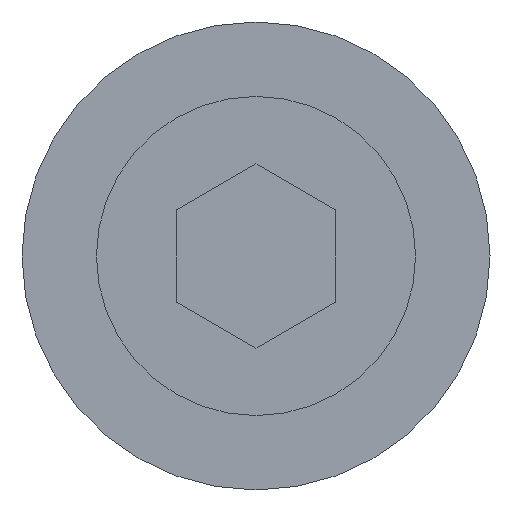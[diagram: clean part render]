
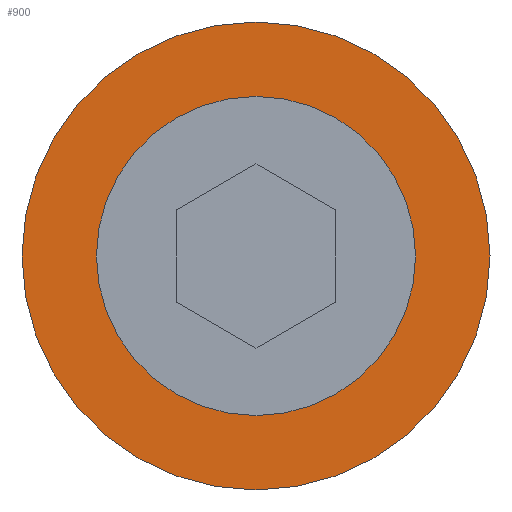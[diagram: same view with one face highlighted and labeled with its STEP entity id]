
A CAD part, left-side view. The second image highlights one B-rep face of the part: STEP entity #900.
In plain terms, the highlighted planar face has unit normal (-1, 0, 0).
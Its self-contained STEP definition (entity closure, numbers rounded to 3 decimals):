
#873=CARTESIAN_POINT('',(143.453,109.613,12.2));
#874=VERTEX_POINT('',#873);
#875=CARTESIAN_POINT('',(143.453,109.613,10.));
#876=DIRECTION('',(1.,0.,0.));
#877=DIRECTION('',(0.,0.,1.));
#878=AXIS2_PLACEMENT_3D('',#875,#876,#877);
#879=CIRCLE('',#878,2.2);
#880=EDGE_CURVE('',#874,#874,#879,.T.);
#881=ORIENTED_EDGE('',*,*,#880,.F.);
#882=EDGE_LOOP('',(#881));
#883=FACE_OUTER_BOUND('',#882,.T.);
#884=CARTESIAN_POINT('',(143.453,109.613,11.5));
#885=VERTEX_POINT('',#884);
#886=CARTESIAN_POINT('',(143.453,109.613,10.));
#887=DIRECTION('',(1.,0.,0.));
#888=DIRECTION('',(0.,0.,1.));
#889=AXIS2_PLACEMENT_3D('',#886,#887,#888);
#890=CIRCLE('',#889,1.5);
#891=EDGE_CURVE('',#885,#885,#890,.T.);
#892=ORIENTED_EDGE('',*,*,#891,.T.);
#893=EDGE_LOOP('',(#892));
#894=FACE_BOUND('',#893,.T.);
#895=CARTESIAN_POINT('',(143.453,109.613,11.1));
#896=DIRECTION('',(-1.,0.,0.));
#897=DIRECTION('',(0.,0.,-1.));
#898=AXIS2_PLACEMENT_3D('',#895,#896,#897);
#899=PLANE('',#898);
#900=ADVANCED_FACE('',(#883,#894),#899,.T.);
